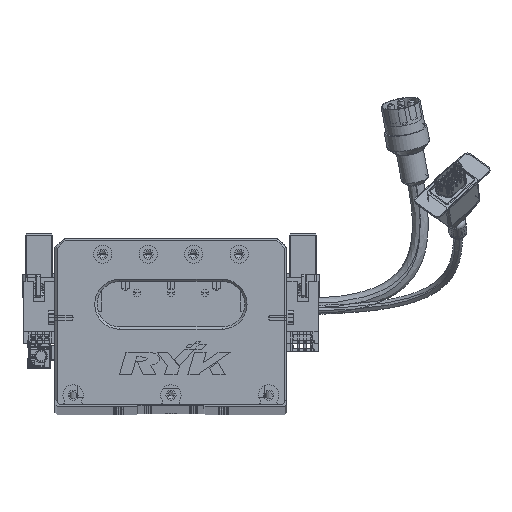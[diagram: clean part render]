
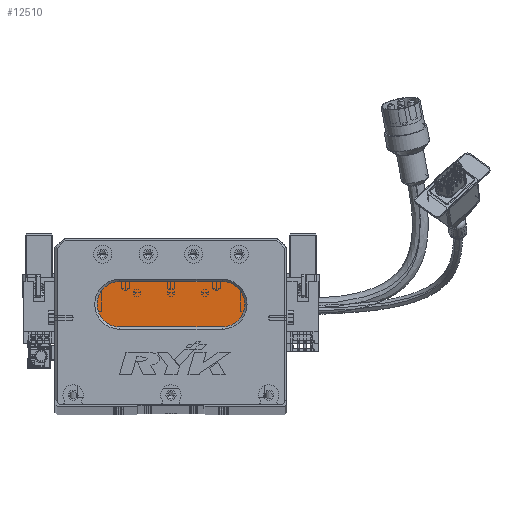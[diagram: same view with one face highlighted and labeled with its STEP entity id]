
A CAD part, top view. The second image highlights one B-rep face of the part: STEP entity #12510.
In plain terms, the highlighted planar face has unit normal (0, 0, 1) as drawn and (0, 0, -1) by its records, which use the part's own axes.
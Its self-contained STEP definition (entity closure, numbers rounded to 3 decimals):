
#2195 = ORIENTED_EDGE ( 'NONE', *, *, #30766, .T. ) ;
#5236 = CARTESIAN_POINT ( 'NONE',  ( 28.5, 44., 13. ) ) ;
#5619 = DIRECTION ( 'NONE',  ( -1., 0., 0. ) ) ;
#6875 = DIRECTION ( 'NONE',  ( 0., 0., -1. ) ) ;
#8023 = CARTESIAN_POINT ( 'NONE',  ( 73.5, 44., 13. ) ) ;
#8201 = LINE ( 'NONE', #33465, #56548 ) ;
#9500 = FACE_OUTER_BOUND ( 'NONE', #11575, .T. ) ;
#10659 = CIRCLE ( 'NONE', #55105, 10. ) ;
#11575 = EDGE_LOOP ( 'NONE', ( #14799, #26901, #75144, #32196, #2195 ) ) ;
#12510 = ADVANCED_FACE ( 'NONE', ( #9500 ), #45565, .T. ) ;
#13819 = DIRECTION ( 'NONE',  ( 0., 0., -1. ) ) ;
#14799 = ORIENTED_EDGE ( 'NONE', *, *, #21907, .T. ) ;
#16367 = EDGE_CURVE ( 'NONE', #77026, #32095, #69271, .T. ) ;
#17827 = CARTESIAN_POINT ( 'NONE',  ( 18.5, 44., 13. ) ) ;
#18866 = CARTESIAN_POINT ( 'NONE',  ( 73.5, 44., 13. ) ) ;
#20448 = DIRECTION ( 'NONE',  ( -1., 0., 0. ) ) ;
#21907 = EDGE_CURVE ( 'NONE', #58299, #77026, #39897, .T. ) ;
#23254 = CARTESIAN_POINT ( 'NONE',  ( 73.5, 34., 13. ) ) ;
#24330 = AXIS2_PLACEMENT_3D ( 'NONE', #18866, #37306, #5619 ) ;
#25882 = CARTESIAN_POINT ( 'NONE',  ( 28.5, 54., 13. ) ) ;
#26198 = DIRECTION ( 'NONE',  ( -1., 0., 0. ) ) ;
#26901 = ORIENTED_EDGE ( 'NONE', *, *, #16367, .T. ) ;
#26923 = VERTEX_POINT ( 'NONE', #17827 ) ;
#28642 = AXIS2_PLACEMENT_3D ( 'NONE', #76338, #6875, #26198 ) ;
#30766 = EDGE_CURVE ( 'NONE', #68860, #58299, #8201, .T. ) ;
#32095 = VERTEX_POINT ( 'NONE', #81204 ) ;
#32196 = ORIENTED_EDGE ( 'NONE', *, *, #34584, .T. ) ;
#33465 = CARTESIAN_POINT ( 'NONE',  ( 73.5, 54., 13. ) ) ;
#34584 = EDGE_CURVE ( 'NONE', #26923, #68860, #10659, .T. ) ;
#37306 = DIRECTION ( 'NONE',  ( 0., 0., -1. ) ) ;
#38998 = DIRECTION ( 'NONE',  ( 1., 0., 0. ) ) ;
#39711 = VECTOR ( 'NONE', #54941, 1000. ) ;
#39897 = CIRCLE ( 'NONE', #24330, 10. ) ;
#42759 = DIRECTION ( 'NONE',  ( 0., 0., -1. ) ) ;
#45565 = PLANE ( 'NONE',  #55453 ) ;
#49148 = DIRECTION ( 'NONE',  ( -1., 0., 0. ) ) ;
#50339 = CIRCLE ( 'NONE', #28642, 10. ) ;
#53689 = CARTESIAN_POINT ( 'NONE',  ( 73.5, 54., 13. ) ) ;
#54588 = EDGE_CURVE ( 'NONE', #32095, #26923, #50339, .T. ) ;
#54941 = DIRECTION ( 'NONE',  ( -1., 0., 0. ) ) ;
#55105 = AXIS2_PLACEMENT_3D ( 'NONE', #5236, #42759, #49148 ) ;
#55453 = AXIS2_PLACEMENT_3D ( 'NONE', #8023, #13819, #20448 ) ;
#56548 = VECTOR ( 'NONE', #38998, 1000. ) ;
#58299 = VERTEX_POINT ( 'NONE', #53689 ) ;
#68860 = VERTEX_POINT ( 'NONE', #25882 ) ;
#69271 = LINE ( 'NONE', #23254, #39711 ) ;
#75144 = ORIENTED_EDGE ( 'NONE', *, *, #54588, .T. ) ;
#76338 = CARTESIAN_POINT ( 'NONE',  ( 28.5, 44., 13. ) ) ;
#77026 = VERTEX_POINT ( 'NONE', #78596 ) ;
#78596 = CARTESIAN_POINT ( 'NONE',  ( 73.5, 34., 13. ) ) ;
#81204 = CARTESIAN_POINT ( 'NONE',  ( 28.5, 34., 13. ) ) ;
